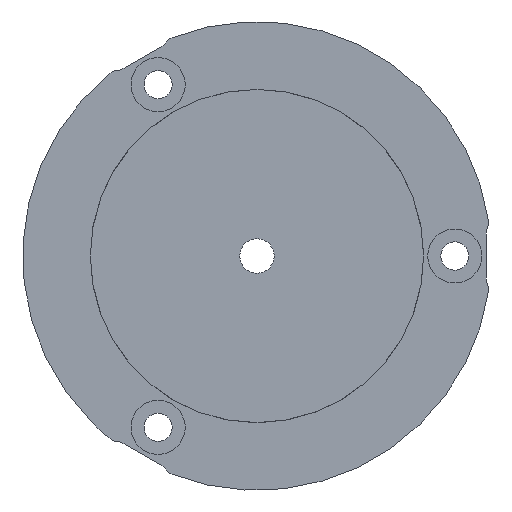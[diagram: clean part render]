
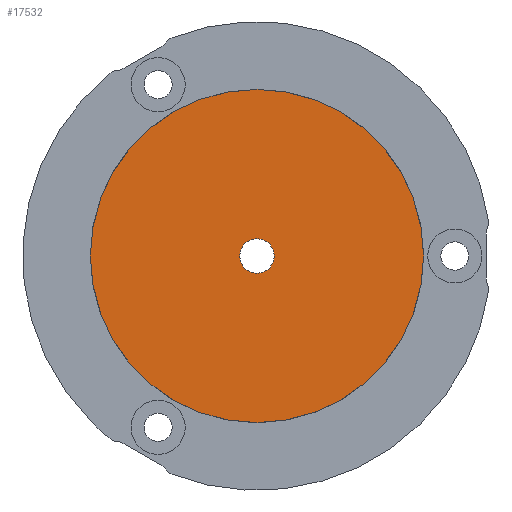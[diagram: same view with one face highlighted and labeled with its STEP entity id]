
A CAD part, front view. The second image highlights one B-rep face of the part: STEP entity #17532.
In plain terms, the highlighted planar face has unit normal (0, -1, 0).
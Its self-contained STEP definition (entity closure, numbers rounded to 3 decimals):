
#1174 = AXIS2_PLACEMENT_3D ( 'NONE', #29951, #5101, #39705 ) ;
#2076 = DIRECTION ( 'NONE',  ( 0., 1., 0. ) ) ;
#4082 = ORIENTED_EDGE ( 'NONE', *, *, #29053, .F. ) ;
#5101 = DIRECTION ( 'NONE',  ( 0., 1., 0. ) ) ;
#7775 = EDGE_LOOP ( 'NONE', ( #4082, #25046 ) ) ;
#9409 = CIRCLE ( 'NONE', #54503, 16. ) ;
#11249 = CIRCLE ( 'NONE', #1174, 1.65 ) ;
#11690 = CARTESIAN_POINT ( 'NONE',  ( 0., -4.1, -1.65 ) ) ;
#13974 = VERTEX_POINT ( 'NONE', #46362 ) ;
#14571 = CARTESIAN_POINT ( 'NONE',  ( 0., -4.1, 0. ) ) ;
#14639 = CARTESIAN_POINT ( 'NONE',  ( 0., -4.1, 0. ) ) ;
#14775 = ORIENTED_EDGE ( 'NONE', *, *, #51872, .T. ) ;
#16692 = DIRECTION ( 'NONE',  ( 0., 1., 0. ) ) ;
#17532 = ADVANCED_FACE ( 'NONE', ( #47184, #28386 ), #18014, .F. ) ;
#18014 = PLANE ( 'NONE',  #33255 ) ;
#18959 = DIRECTION ( 'NONE',  ( 0., 1., 0. ) ) ;
#20724 = VERTEX_POINT ( 'NONE', #60807 ) ;
#22675 = DIRECTION ( 'NONE',  ( 0., 0., 1. ) ) ;
#25046 = ORIENTED_EDGE ( 'NONE', *, *, #45964, .F. ) ;
#25307 = CIRCLE ( 'NONE', #29339, 16. ) ;
#25419 = CARTESIAN_POINT ( 'NONE',  ( 0., -4.1, 0. ) ) ;
#28386 = FACE_BOUND ( 'NONE', #53401, .T. ) ;
#29027 = VERTEX_POINT ( 'NONE', #11690 ) ;
#29053 = EDGE_CURVE ( 'NONE', #20724, #13974, #25307, .T. ) ;
#29339 = AXIS2_PLACEMENT_3D ( 'NONE', #14639, #16692, #38822 ) ;
#29951 = CARTESIAN_POINT ( 'NONE',  ( 0., -4.1, 0. ) ) ;
#33255 = AXIS2_PLACEMENT_3D ( 'NONE', #14571, #18959, #52533 ) ;
#34965 = CIRCLE ( 'NONE', #58005, 1.65 ) ;
#38822 = DIRECTION ( 'NONE',  ( 0., 0., 1. ) ) ;
#39705 = DIRECTION ( 'NONE',  ( 0., 0., 1. ) ) ;
#40510 = DIRECTION ( 'NONE',  ( 0., 0., 1. ) ) ;
#45964 = EDGE_CURVE ( 'NONE', #13974, #20724, #9409, .T. ) ;
#46253 = ORIENTED_EDGE ( 'NONE', *, *, #56501, .T. ) ;
#46362 = CARTESIAN_POINT ( 'NONE',  ( 0., -4.1, 16. ) ) ;
#47184 = FACE_OUTER_BOUND ( 'NONE', #7775, .T. ) ;
#48998 = CARTESIAN_POINT ( 'NONE',  ( 0., -4.1, 1.65 ) ) ;
#51872 = EDGE_CURVE ( 'NONE', #29027, #53871, #11249, .T. ) ;
#52533 = DIRECTION ( 'NONE',  ( 0., 0., 1. ) ) ;
#53401 = EDGE_LOOP ( 'NONE', ( #14775, #46253 ) ) ;
#53871 = VERTEX_POINT ( 'NONE', #48998 ) ;
#54503 = AXIS2_PLACEMENT_3D ( 'NONE', #25419, #2076, #40510 ) ;
#55262 = DIRECTION ( 'NONE',  ( 0., 1., 0. ) ) ;
#56501 = EDGE_CURVE ( 'NONE', #53871, #29027, #34965, .T. ) ;
#58005 = AXIS2_PLACEMENT_3D ( 'NONE', #59725, #55262, #22675 ) ;
#59725 = CARTESIAN_POINT ( 'NONE',  ( 0., -4.1, 0. ) ) ;
#60807 = CARTESIAN_POINT ( 'NONE',  ( 0., -4.1, -16. ) ) ;
